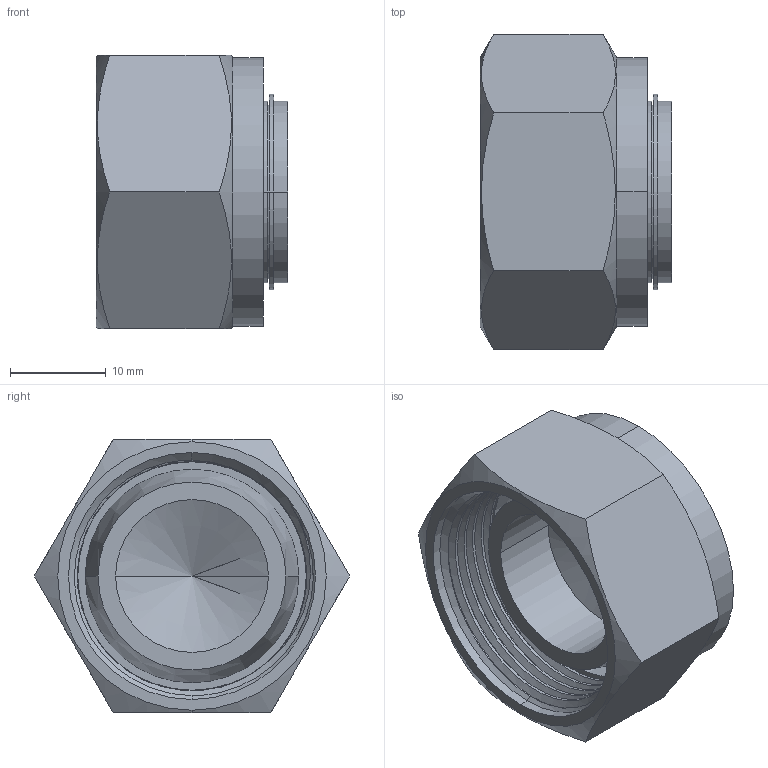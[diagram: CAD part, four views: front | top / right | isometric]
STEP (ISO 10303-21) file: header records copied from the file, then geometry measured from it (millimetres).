
FILE_DESCRIPTION (( 'STEP AP203' ), '1' );
FILE_NAME ('DBA12 SS.STEP', '2009-09-08T04:42:03', ( ' ' ), ( '' ), 'SwSTEP 2.0', 'SolidWorks 2008', '' );
FILE_SCHEMA (( 'CONFIG_CONTROL_DESIGN' ));
Length unit declared in the file: millimetre
Products named in the file (1): DBA12 SS
Bounding box: 20.08 x 33 x 28.58 mm (x, y, z)
Volume: 7891.1 mm3; surface area: 5486.4 mm2
Topology: 2 solids, 2 shells, 68 faces, 167 edges, 108 vertices
Faces by surface type: cylinder 36, plane 19, cone 10, bspline 3
Entity records: 3035 total; most frequent: CARTESIAN_POINT 1438, ORIENTED_EDGE 330, DIRECTION 305, EDGE_CURVE 165, AXIS2_PLACEMENT_3D 122, VERTEX_POINT 108, EDGE_LOOP 75, ADVANCED_FACE 68
